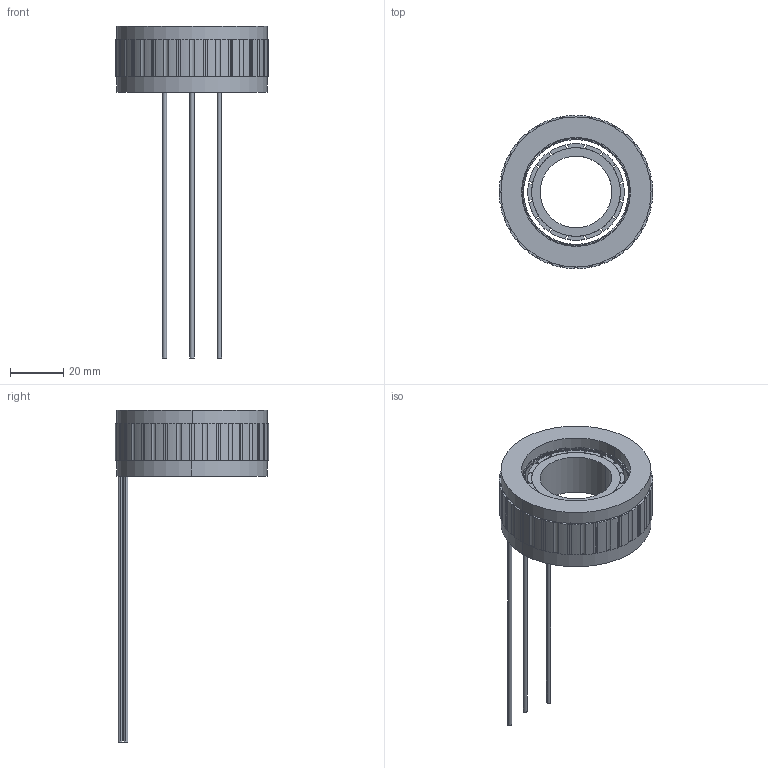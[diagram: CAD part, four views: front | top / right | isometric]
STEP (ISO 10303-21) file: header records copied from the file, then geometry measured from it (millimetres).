
FILE_DESCRIPTION (( 'STEP AP203' ), '1' );
FILE_NAME ('307080333SS FMC05714-0020-3027N-8DS00-V1.1.STEP', '2022-12-07T03:01:22', ( 'muse' ), ( 'muse' ), 'SwSTEP 2.0', 'SolidWorks 2022', '' );
FILE_SCHEMA (( 'CONFIG_CONTROL_DESIGN' ));
Length unit declared in the file: millimetre
Products named in the file (6): 57.8包胶; 57.8定子铁芯(外发版）; 线包高度; 磁钢(外发版）; 307080333SS FMC05714-0020-3027N-8DS00-V1.1; 转子
Assembly tree (54 placements, depth 2):
  307080333SS FMC05714-0020-3027N-8DS00-V1.1
    57.8包胶  x18
    57.8定子铁芯(外发版）  x18
    转子
    磁钢(外发版）  x16
    线包高度
Bounding box: 57.78 x 57.77 x 125 mm (x, y, z)
Volume: 34860.6 mm3; surface area: 43499.4 mm2
Topology: 55 solids, 55 shells, 1347 faces, 3666 edges, 2396 vertices
Faces by surface type: plane 829, cylinder 518
Entity records: 5272 total; most frequent: DIRECTION 664, CARTESIAN_POINT 582, ORIENTED_EDGE 512, EDGE_CURVE 256, AXIS2_PLACEMENT_3D 250, VERTEX_POINT 168, LINE 164, VECTOR 164
